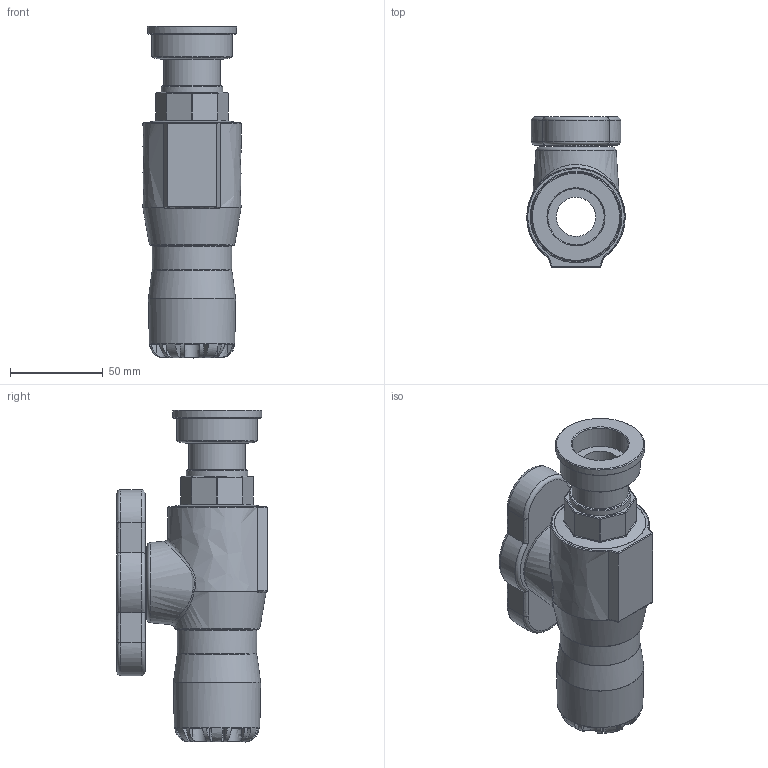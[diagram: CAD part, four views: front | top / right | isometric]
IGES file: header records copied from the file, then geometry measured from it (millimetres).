
Global section: file name: 0371016S00025010_0371016SF0025010; native system: Autodesk Inventor 2019; preprocessor: unknown; author: Lenora; date: 20220418.194415; units: millimetre
Bounding box: 53 x 81 x 179 mm (x, y, z)
Volume: 285994.3 mm3; surface area: 58024.6 mm2
Topology: 1 solids, 1 shells, 232 faces, 574 edges, 356 vertices
Faces by surface type: bspline 232
